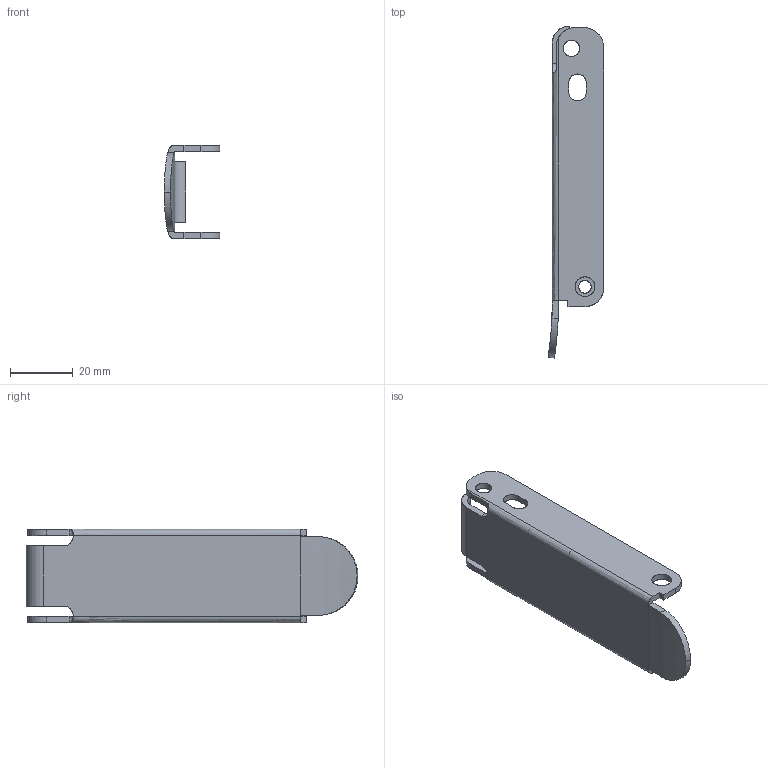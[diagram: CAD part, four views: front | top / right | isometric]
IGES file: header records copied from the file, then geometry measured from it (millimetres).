
Start section: SolidWorks IGES FILE using analytic representation for surfaces
Global section: file name: C:\Documents and Settings\lecoutey\Bureau\GP 47\48.010.10.IGS; native system: SolidWorks 2004 by SolidWorks Corporation; preprocessor: Version 5.3; author: lecoutey; date: 050329.145534; units: millimetre
Bounding box: 17.7 x 105.8 x 29.8 mm (x, y, z)
Surface area: 11274.1 mm2 (no closed solid volume)
Topology: 0 solids, 0 shells, 59 faces, 950 edges, 950 vertices
Faces by surface type: revolution 30, bspline 29
